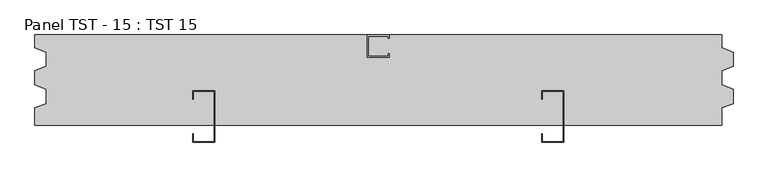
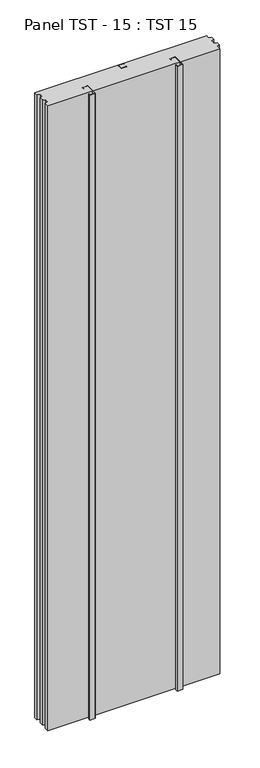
"""IFC4 building model written with IfcOpenShell, lengths in millimetres: plate geometry, Panel TST - 15 : TST 15."""

from ifc_helpers import new_model, si_unit, origin, origin_with_axes, place, context, project, spatial, polyline, outline, extrude, source, transform, mapped, element, save


def panel_tst_15_tst_15_e65004d1(model_context):
    return source(origin(), model_context, "Body", "SweptSolid", [
        extrude(outline(polyline([(-19.5, 78.75), (19.5, 78.75), (19.5, 72.75), (17.5, 72.75), (17.5, 76.75), (-17.5, 76.75), (-17.5, 41.75), (17.5, 41.75), (17.5, 45.75), (19.5, 45.75), (19.5, 39.75), (-19.5, 39.75), (-19.5, 78.75)])), origin_with_axes(), (0.0, 0.0, 1.0), 4618.8021535),
        extrude(outline(polyline([(-324.0000002, -18.75), (-286.0000002, -18.75), (-286.0000002, -108.75), (-324.0000002, -108.75), (-324.0000002, -93.75), (-323.1500002, -93.75), (-323.1500002, -107.9), (-286.8500002, -107.9), (-286.8500002, -19.6), (-323.1500002, -19.6), (-323.1500002, -33.75), (-324.0000002, -33.75), (-324.0000002, -18.75)])), origin_with_axes(), (0.0, 0.0, 1.0), 4618.8021535),
        extrude(outline(polyline([(286.0000002, -18.75), (324.0000002, -18.75), (324.0000002, -108.75), (286.0000002, -108.75), (286.0000002, -93.75), (286.8500002, -93.75), (286.8500002, -107.9), (323.1500002, -107.9), (323.1500002, -19.6), (286.8500002, -19.6), (286.8500002, -33.75), (286.0000002, -33.75), (286.0000002, -18.75)])), origin_with_axes(), (0.0, 0.0, 1.0), 4618.8021535),
        extrude(outline(polyline([(-600.0000002, 78.75), (600.0000002, 78.75), (600.0000002, 56.2520076), (620.0000002, 48.7510038), (620.0000002, 23.7510038), (600.0000002, 16.25), (600.0000002, -8.75), (620.0000002, -16.2510038), (620.0000002, -41.2510038), (600.0000002, -48.7520076), (600.0000002, -78.75), (-600.0000002, -78.75), (-600.0000002, -48.7520076), (-580.0000002, -41.2510038), (-580.0000002, -16.2510038), (-600.0000002, -8.75), (-600.0000002, 16.25), (-580.0000002, 23.7510038), (-580.0000002, 48.7510038), (-600.0000002, 56.2520076), (-600.0000002, 78.75)])), origin_with_axes(), (0.0, 0.0, 1.0), 4618.8021535),
    ])


if __name__ == "__main__":
    model = new_model("IFC4")
    model_context = context("Model", 3, world=origin())
    ifc_project = project(units=[si_unit("LENGTHUNIT", "METRE", prefix="MILLI")], contexts=[model_context])
    site = spatial("IfcSite", under=ifc_project)
    building = spatial("IfcBuilding", under=site)
    placement = place(None, origin())
    panel_tst_15_tst_15_shape = panel_tst_15_tst_15_e65004d1(model_context)
    element("IfcPlate", 1, ObjectType="Panel TST - 15 : TST 15", at=placement, inside=building, context=model_context, shape_type="MappedRepresentation", body=[
        mapped(panel_tst_15_tst_15_shape, transform((0.0, 0.0, 0.0), x_axis=(1.0, 0.0, 0.0), y_axis=(0.0, 1.0, 0.0), z_axis=(0.0, 0.0, 1.0))),
    ])
    save(model, "model.ifc")
